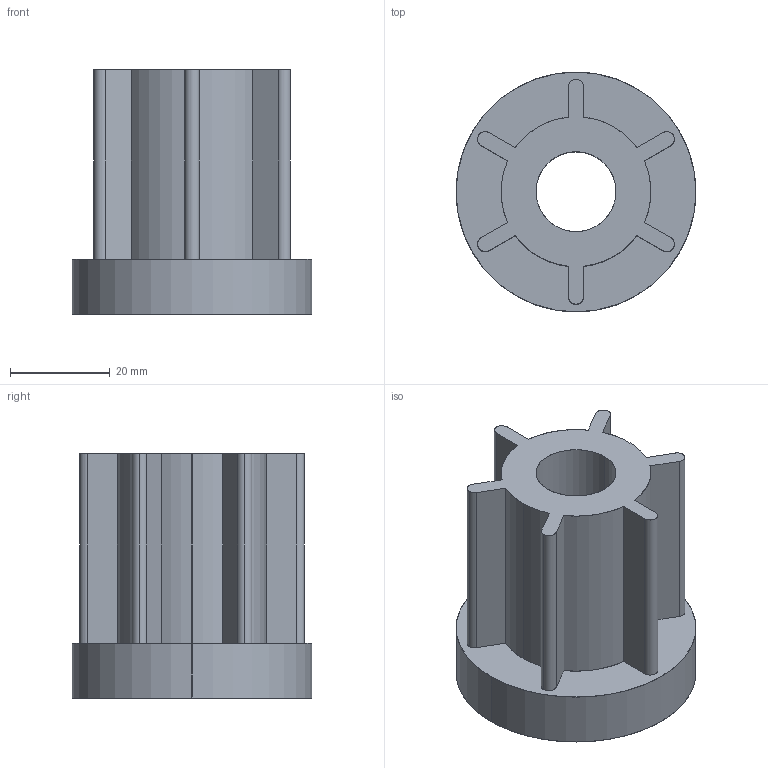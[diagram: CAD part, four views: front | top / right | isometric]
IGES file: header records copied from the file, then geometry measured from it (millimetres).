
Start section: SolidWorks IGES file using analytic representation for surfaces
Global section: file name: C:\Documents and Settings\URETIM3\Desktop\yeni katalog tolgay düzenli\A kataloðu\235 yuvarlak profil klavuzlari\235 481 516.IGS; native system: SolidWorks 2006 by SolidWorks Corporation; preprocessor: SolidWorks 2006 by SolidWorks Corporation; author: URETIM3; date: 060912.093913; units: millimetre
Bounding box: 48 x 48 x 49 mm (x, y, z)
Surface area: 14080.1 mm2 (no closed solid volume)
Topology: 0 solids, 0 shells, 38 faces, 636 edges, 636 vertices
Faces by surface type: revolution 23, bspline 15
